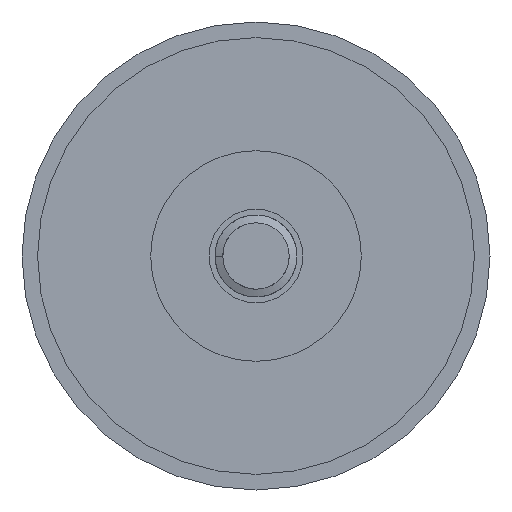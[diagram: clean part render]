
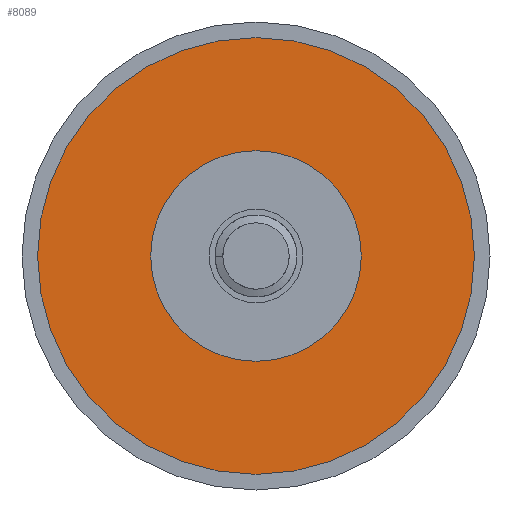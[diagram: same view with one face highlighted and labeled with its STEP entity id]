
A CAD part, front view. The second image highlights one B-rep face of the part: STEP entity #8089.
In plain terms, the highlighted planar face has unit normal (0, -1, 0).
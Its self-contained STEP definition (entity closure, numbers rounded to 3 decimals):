
#29 = DIRECTION ( 'NONE',  ( 0., -1., 0. ) ) ;
#382 = DIRECTION ( 'NONE',  ( 0., 0., -1. ) ) ;
#545 = EDGE_CURVE ( 'NONE', #14506, #4088, #7557, .T. ) ;
#921 = CIRCLE ( 'NONE', #9889, 28. ) ;
#1175 = EDGE_LOOP ( 'NONE', ( #3507, #10283 ) ) ;
#1180 = FACE_BOUND ( 'NONE', #1929, .T. ) ;
#1929 = EDGE_LOOP ( 'NONE', ( #6028, #12896 ) ) ;
#2521 = CARTESIAN_POINT ( 'NONE',  ( 0., 0., 0. ) ) ;
#3169 = DIRECTION ( 'NONE',  ( 0., 1., 0. ) ) ;
#3295 = AXIS2_PLACEMENT_3D ( 'NONE', #14014, #7179, #382 ) ;
#3478 = EDGE_CURVE ( 'NONE', #4088, #14506, #5998, .T. ) ;
#3507 = ORIENTED_EDGE ( 'NONE', *, *, #14273, .F. ) ;
#4088 = VERTEX_POINT ( 'NONE', #6590 ) ;
#5476 = CIRCLE ( 'NONE', #3295, 28. ) ;
#5567 = AXIS2_PLACEMENT_3D ( 'NONE', #8856, #3169, #11130 ) ;
#5670 = CARTESIAN_POINT ( 'NONE',  ( 0., 0., 0. ) ) ;
#5998 = CIRCLE ( 'NONE', #12190, 13.5 ) ;
#6028 = ORIENTED_EDGE ( 'NONE', *, *, #3478, .F. ) ;
#6590 = CARTESIAN_POINT ( 'NONE',  ( 0., 0., -13.5 ) ) ;
#6831 = DIRECTION ( 'NONE',  ( 0., 0., -1. ) ) ;
#6838 = CARTESIAN_POINT ( 'NONE',  ( 0., 0., 0. ) ) ;
#7013 = DIRECTION ( 'NONE',  ( 0., -1., 0. ) ) ;
#7179 = DIRECTION ( 'NONE',  ( 0., 1., 0. ) ) ;
#7557 = CIRCLE ( 'NONE', #12455, 13.5 ) ;
#7690 = PLANE ( 'NONE',  #5567 ) ;
#7960 = DIRECTION ( 'NONE',  ( 0., 0., -1. ) ) ;
#8089 = ADVANCED_FACE ( 'NONE', ( #10615, #1180 ), #7690, .F. ) ;
#8197 = CARTESIAN_POINT ( 'NONE',  ( 0., 0., 13.5 ) ) ;
#8226 = CARTESIAN_POINT ( 'NONE',  ( 0., 0., 28. ) ) ;
#8856 = CARTESIAN_POINT ( 'NONE',  ( 0., 0., 0. ) ) ;
#9089 = VERTEX_POINT ( 'NONE', #11807 ) ;
#9598 = VERTEX_POINT ( 'NONE', #8226 ) ;
#9889 = AXIS2_PLACEMENT_3D ( 'NONE', #5670, #13641, #6831 ) ;
#10283 = ORIENTED_EDGE ( 'NONE', *, *, #13870, .F. ) ;
#10615 = FACE_OUTER_BOUND ( 'NONE', #1175, .T. ) ;
#11130 = DIRECTION ( 'NONE',  ( 0., 0., 1. ) ) ;
#11807 = CARTESIAN_POINT ( 'NONE',  ( 0., 0., -28. ) ) ;
#12190 = AXIS2_PLACEMENT_3D ( 'NONE', #6838, #29, #7960 ) ;
#12455 = AXIS2_PLACEMENT_3D ( 'NONE', #2521, #7013, #12739 ) ;
#12739 = DIRECTION ( 'NONE',  ( 0., 0., -1. ) ) ;
#12896 = ORIENTED_EDGE ( 'NONE', *, *, #545, .F. ) ;
#13641 = DIRECTION ( 'NONE',  ( 0., 1., 0. ) ) ;
#13870 = EDGE_CURVE ( 'NONE', #9598, #9089, #5476, .T. ) ;
#14014 = CARTESIAN_POINT ( 'NONE',  ( 0., 0., 0. ) ) ;
#14273 = EDGE_CURVE ( 'NONE', #9089, #9598, #921, .T. ) ;
#14506 = VERTEX_POINT ( 'NONE', #8197 ) ;
